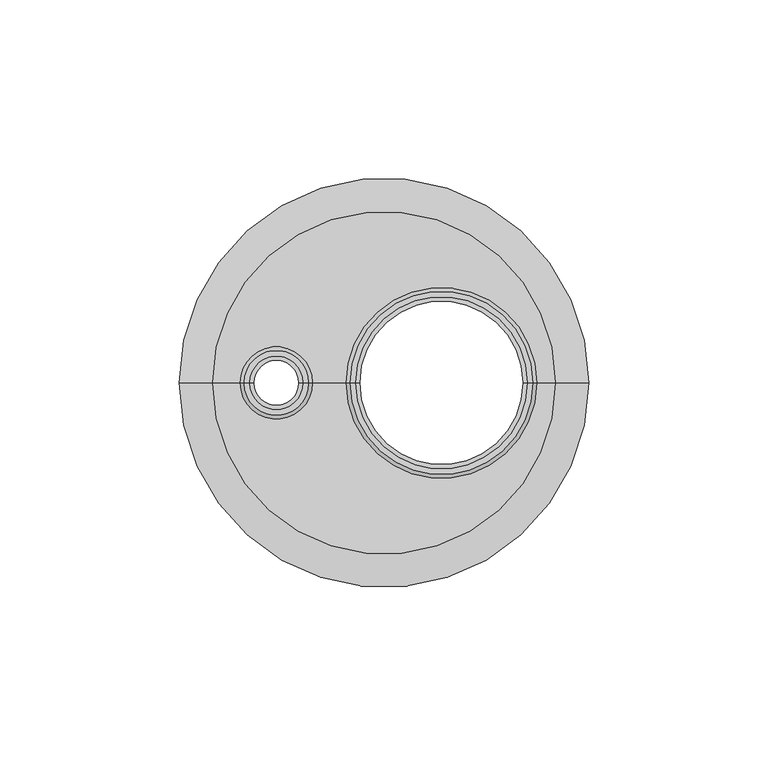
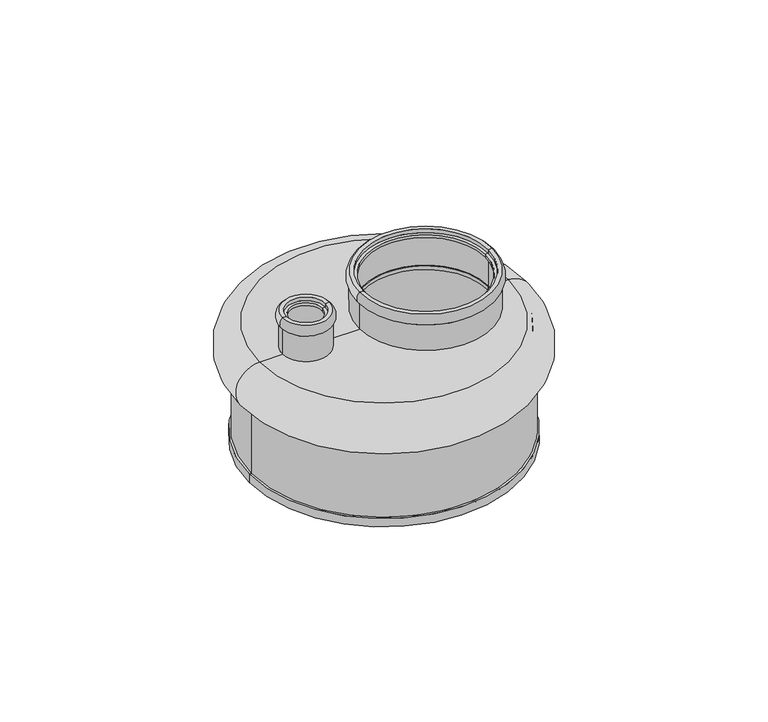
"""IFC4 building model written with IfcOpenShell, lengths in millimetres: valve geometry, Astra - Vedante Flexível Duplo - CFD : Astra - Vedante Flexível Duplo - CFD."""

import ifcopenshell
import ifcopenshell.guid

model = None  # the IFC model being written
_history = None  # IfcOwnerHistory: only IFC2X3 demands one
_inside = {}  # id of a spatial element -> (the spatial element, [elements in it])
_under = {}  # id of a project, library or spatial element -> (it, [spatial elements below it])
_declared = {}  # id of a project -> (the project, [libraries it declares])
_typed = {}  # id of a type object -> (the type object, [elements of that type])
_made_of = {}  # id of a material, layer set ... -> (it, [elements and type objects made of it])


def new_model(schema):
    """Start an empty IFC model of exactly this schema.

    Asked for "IFC4X3", IfcOpenShell would pick the latest addendum, in which some entities
    have other attributes; the version numbers below select the first issue.
    IFC2X3 requires an IfcOwnerHistory on every rooted entity: one is made here for all.
    """
    global model, _history
    if schema == "IFC4X3":
        model = ifcopenshell.file(schema_version=(4, 3, 0, 0))
    else:
        model = ifcopenshell.file(schema=schema)
    _inside.clear()
    _under.clear()
    _declared.clear()
    _typed.clear()
    _made_of.clear()
    _history = None
    if model.schema == "IFC2X3":
        org = make("IfcOrganization", Name="unknown")
        user = make(
            "IfcPersonAndOrganization",
            ThePerson=make("IfcPerson", FamilyName="unknown"),
            TheOrganization=org,
        )
        app = make(
            "IfcApplication",
            ApplicationDeveloper=org,
            Version="unknown",
            ApplicationFullName="unknown",
            ApplicationIdentifier="unknown",
        )
        _history = make(
            "IfcOwnerHistory",
            OwningUser=user,
            OwningApplication=app,
            ChangeAction="ADDED",
            CreationDate=0,
        )
    return model


def make(cls, **values):
    """One entity of the class cls with the attributes given. An attribute that is None is left unset."""
    return model.create_entity(
        cls, **{name: value for name, value in values.items() if value is not None}
    )


def rooted(cls, **values):
    """An entity with a GlobalId (a new one), such as an element, a storey or a relation."""
    return make(cls, GlobalId=ifcopenshell.guid.new(), OwnerHistory=_history, **values)


def si_unit(unit_type, name, prefix=None):
    """IfcSIUnit, for example si_unit("LENGTHUNIT", "METRE", prefix="MILLI")."""
    return make("IfcSIUnit", UnitType=unit_type, Prefix=prefix, Name=name)


def assignment(units):
    """IfcUnitAssignment: the units of a project."""
    return None if units is None else make("IfcUnitAssignment", Units=units)


def point(xyz):
    """IfcCartesianPoint."""
    return None if xyz is None else make("IfcCartesianPoint", Coordinates=xyz)


def direction(xyz):
    """IfcDirection."""
    return None if xyz is None else make("IfcDirection", DirectionRatios=xyz)


def frame(location, z_axis=None, x_axis=None):
    """IfcAxis2Placement3D, a coordinate frame: its origin and axes. An axis left out is left unset."""
    return make(
        "IfcAxis2Placement3D",
        Location=point(location),
        Axis=direction(z_axis),
        RefDirection=direction(x_axis),
    )


def origin():
    """The frame at (0, 0, 0) with its axes left unset."""
    return frame((0.0, 0.0, 0.0))


def origin_with_axes():
    """The frame at (0, 0, 0) with the z axis (0, 0, 1) and the x axis (1, 0, 0) written out."""
    return frame((0.0, 0.0, 0.0), z_axis=(0.0, 0.0, 1.0), x_axis=(1.0, 0.0, 0.0))


def place(relative_to, where):
    """IfcLocalPlacement: puts the frame where relative to a parent placement (None: the world)."""
    return make(
        "IfcLocalPlacement", PlacementRelTo=relative_to, RelativePlacement=where
    )


def context(
    kind, dimensions, precision=None, world=None, true_north=None, identifier=None
):
    """IfcGeometricRepresentationContext, for example the 3D "Model" context."""
    return make(
        "IfcGeometricRepresentationContext",
        ContextIdentifier=identifier,
        ContextType=kind,
        CoordinateSpaceDimension=dimensions,
        Precision=precision,
        WorldCoordinateSystem=world,
        TrueNorth=true_north,
    )


def project(units=None, contexts=None):
    """IfcProject with its units and contexts."""
    return rooted(
        "IfcProject",
        Name="project",
        RepresentationContexts=contexts,
        UnitsInContext=assignment(units),
    )


def spatial(cls, under=None, at=None, **own):
    """A site, building, storey or space (cls), placed at a placement, below another one or the project."""
    s = rooted(cls, ObjectPlacement=at, **own)
    if under is not None:
        _under.setdefault(under.id(), (under, []))[1].append(s)
    return s


def polyline(points):
    """IfcPolyline through the points."""
    return make("IfcPolyline", Points=[point(p) for p in points])


def circle_curve(where, radius):
    """IfcCircle in the frame where."""
    return make("IfcCircle", Position=where, Radius=radius)


def ellipse_curve(where, semi_axis1, semi_axis2):
    """IfcEllipse in the frame where."""
    return make(
        "IfcEllipse", Position=where, SemiAxis1=semi_axis1, SemiAxis2=semi_axis2
    )


def trimmed(basis, trim1, trim2, sense, master):
    """IfcTrimmedCurve: the piece of a basis curve between two trims."""
    return make(
        "IfcTrimmedCurve",
        BasisCurve=basis,
        Trim1=trim1,
        Trim2=trim2,
        SenseAgreement=sense,
        MasterRepresentation=master,
    )


def shape(context_of_items, identifier, shape_type, items):
    """IfcShapeRepresentation: the items that make up one representation, for example the "Body"."""
    return make(
        "IfcShapeRepresentation",
        ContextOfItems=context_of_items,
        RepresentationIdentifier=identifier,
        RepresentationType=shape_type,
        Items=items,
    )


def source(mapping_origin, context_of_items, identifier, shape_type, items):
    """IfcRepresentationMap: a shape defined once, which mapped items show again and again."""
    return make(
        "IfcRepresentationMap",
        MappingOrigin=mapping_origin,
        MappedRepresentation=shape(context_of_items, identifier, shape_type, items),
    )


def transform(
    local_origin,
    x_axis=None,
    y_axis=None,
    z_axis=None,
    scale=None,
    scale2=None,
    scale3=None,
    uniform=True,
):
    """IfcCartesianTransformationOperator3D, or its non-uniform kind. x_axis, y_axis, z_axis: its Axis1, 2, 3."""
    if uniform:
        return make(
            "IfcCartesianTransformationOperator3D",
            Axis1=direction(x_axis),
            Axis2=direction(y_axis),
            LocalOrigin=point(local_origin),
            Scale=scale,
            Axis3=direction(z_axis),
        )
    return make(
        "IfcCartesianTransformationOperator3DnonUniform",
        Axis1=direction(x_axis),
        Axis2=direction(y_axis),
        LocalOrigin=point(local_origin),
        Scale=scale,
        Axis3=direction(z_axis),
        Scale2=scale2,
        Scale3=scale3,
    )


def mapped(mapping_source, mapping_target):
    """IfcMappedItem: shows the shape of a source again, moved by a transform."""
    return make(
        "IfcMappedItem", MappingSource=mapping_source, MappingTarget=mapping_target
    )


def made_of(thing, what):
    """Note that an element or type object is made of a material, layer set ...; save() writes the relation."""
    if what is not None:
        _made_of.setdefault(what.id(), (what, []))[1].append(thing)
    return thing


def element(
    cls,
    number,
    at=None,
    inside=None,
    cuts=None,
    type_object=None,
    material=None,
    context=None,
    identifier="Body",
    shape_type=None,
    held_by="IfcProductDefinitionShape",
    body=None,
    shapes=None,
    **own,
):
    """One element of the class cls, such as IfcWall. Its Tag is "e" and its number.

    at: its placement. inside: the storey or other place that contains it. cuts: it is an
    opening in that element (IfcRelVoidsElement). A single representation is given by context,
    identifier, shape_type and body (its items); several are given by shapes. held_by: the class
    of the entity that holds the representations. save() writes the other relations.
    """
    e = rooted(cls, Tag="e%d" % number, ObjectPlacement=at, **own)
    if body is not None:
        shapes = [shape(context, identifier, shape_type, body)]
    if shapes is not None:
        e.Representation = make(held_by, Representations=shapes)
    if inside is not None:
        _inside.setdefault(inside.id(), (inside, []))[1].append(e)
    if cuts is not None:
        rooted(
            "IfcRelVoidsElement", RelatingBuildingElement=cuts, RelatedOpeningElement=e
        )
    if type_object is not None:
        _typed.setdefault(type_object.id(), (type_object, []))[1].append(e)
    return made_of(e, material)


def aggregate(whole, parts):
    """IfcRelAggregates: a whole, such as a stair, and the parts it consists of."""
    return rooted("IfcRelAggregates", RelatingObject=whole, RelatedObjects=parts)


def save(model, path):
    """Write the relations noted so far, then the file.

    IfcRelAggregates (storeys below a building ...), IfcRelContainedInSpatialStructure (elements
    in a storey), IfcRelDefinesByType, IfcRelAssociatesMaterial and IfcRelDeclares: one each for
    every whole, place, type object, material and project.
    """
    for whole, parts in _under.values():
        aggregate(whole, parts)
    for where, things in _inside.values():
        rooted(
            "IfcRelContainedInSpatialStructure",
            RelatedElements=things,
            RelatingStructure=where,
        )
    for kind, things in _typed.values():
        rooted("IfcRelDefinesByType", RelatedObjects=things, RelatingType=kind)
    for what, things in _made_of.values():
        rooted("IfcRelAssociatesMaterial", RelatedObjects=things, RelatingMaterial=what)
    for by, libraries in _declared.values():
        rooted("IfcRelDeclares", RelatingContext=by, RelatedDefinitions=libraries)
    model.write(path)


def plane_surface(at):
    """IfcPlane: the flat surface through the origin of the frame at, square to its z axis."""
    return make("IfcPlane", Position=at)


def cylinder_surface(at, radius):
    """IfcCylindricalSurface: all points at the distance radius from the z axis of the frame at."""
    return make("IfcCylindricalSurface", Position=at, Radius=radius)


def revolved_surface(curve, axis_point, axis_direction):
    """IfcSurfaceOfRevolution: the curve turned about the line through axis_point along axis_direction."""
    return make(
        "IfcSurfaceOfRevolution",
        SweptCurve=make("IfcArbitraryOpenProfileDef", ProfileType="CURVE", Curve=curve),
        AxisPosition=make("IfcAxis1Placement", Location=point(axis_point), Axis=direction(axis_direction)),
    )


def advanced_brep(points, edges, surfaces, faces):
    """IfcAdvancedBrep: a solid bounded by faces that lie on surfaces and meet in shared edges.

    An edge is (start, end): straight between two places in points (the first is 0);
    or (start, end, curve); or (start, end, curve, False) where it runs against its curve.
    A face is (place in surfaces, loops), or (place, loops, False) where it looks against
    its surface's normal. A loop lists edges by number (the first is 1), with a minus sign
    where the edge is run from its end to its start. The first loop is the outer one.
    """
    corners = [point(p) for p in points]
    vertices = [make("IfcVertexPoint", VertexGeometry=c) for c in corners]
    made = []
    for start, end, *more in edges:
        made.append(
            make(
                "IfcEdgeCurve",
                EdgeStart=vertices[start],
                EdgeEnd=vertices[end],
                EdgeGeometry=more[0] if more else make("IfcPolyline", Points=[corners[start], corners[end]]),
                SameSense=more[1] if len(more) > 1 else True,
            )
        )
    hull = []
    for where, loops, *sense in faces:
        bounds = []
        for j, loop in enumerate(loops):
            ring = [make("IfcOrientedEdge", EdgeElement=made[abs(k) - 1], Orientation=k > 0) for k in loop]
            bounds.append(
                make(
                    "IfcFaceOuterBound" if j == 0 else "IfcFaceBound",
                    Bound=make("IfcEdgeLoop", EdgeList=ring),
                    Orientation=True,
                )
            )
        hull.append(make("IfcAdvancedFace", Bounds=bounds, FaceSurface=surfaces[where], SameSense=sense[0] if sense else True))
    return make("IfcAdvancedBrep", Outer=make("IfcClosedShell", CfsFaces=hull))


def valve_1405c498(model_context):
    return source(origin(), model_context, "Body", "AdvancedBrep", [
        advanced_brep(
        [(47.718, 0.0, 0.0), (-47.718, 0.0, 0.0), (-37.5, 0.0, 0.0), (-22.5, 0.0, 0.0), (-8.0, 0.0, 0.0), (40.0, 0.0, 0.0), (-49.5006317, 0.0, -47.402), (49.5, 0.0, -47.402), (49.5, 0.0, -1.5), (-49.5006317, 0.0, -1.5), (-51.8006317, 0.0, -47.402), (51.8, 0.0, -47.402), (-51.8006317, 0.0, -44.102), (51.8, 0.0, -44.102), (-51.0006317, 0.0, -44.102), (51.0, 0.0, -44.102), (-51.0006317, 0.0, -17.47), (51.0, 0.0, -17.47), (40.0, 0.0, -1.5), (-8.0, 0.0, -1.5), (-22.5, 0.0, -1.5), (-37.5, 0.0, -1.5), (-52.0977329, 0.0, -17.47), (52.0977329, 0.0, -17.47)],
        [
            (0, 1, circle_curve(origin_with_axes(), 47.718)),
            (1, 2),
            (2, 3, circle_curve(frame((-30.0, 0.0, 0.0), z_axis=(0.0, 0.0, -1.0), x_axis=(1.0, 0.0, 0.0)), 7.5)),
            (3, 4),
            (4, 5, circle_curve(frame((16.0, 0.0, 0.0), z_axis=(0.0, 0.0, -1.0), x_axis=(1.0, 0.0, 0.0)), 24.0)),
            (5, 0),
            (1, 0, circle_curve(origin_with_axes(), 47.718)),
            (5, 4, circle_curve(frame((16.0, 0.0, 0.0), z_axis=(0.0, 0.0, -1.0), x_axis=(1.0, 0.0, 0.0)), 24.0)),
            (3, 2, circle_curve(frame((-30.0, 0.0, 0.0), z_axis=(0.0, 0.0, -1.0), x_axis=(1.0, 0.0, 0.0)), 7.5)),
            (6, 7, circle_curve(frame((-0.0003158, 0.0, -47.402), z_axis=(0.0, 0.0, -1.0), x_axis=(1.0, 0.0, 0.0)), 49.5003158)),
            (7, 8),
            (8, 9, circle_curve(frame((-0.0003158, 0.0, -1.5), z_axis=(0.0, 0.0, 1.0), x_axis=(1.0, 0.0, 0.0)), 49.5003158)),
            (9, 6),
            (7, 6, circle_curve(frame((-0.0003158, 0.0, -47.402), z_axis=(0.0, 0.0, -1.0), x_axis=(1.0, 0.0, 0.0)), 49.5003158)),
            (9, 8, circle_curve(frame((-0.0003158, 0.0, -1.5), z_axis=(0.0, 0.0, 1.0), x_axis=(1.0, 0.0, 0.0)), 49.5003158)),
            (6, 10),
            (10, 11, circle_curve(frame((-0.0003158, 0.0, -47.402), z_axis=(0.0, 0.0, -1.0), x_axis=(1.0, 0.0, 0.0)), 51.8003158)),
            (11, 7),
            (11, 10, circle_curve(frame((-0.0003158, 0.0, -47.402), z_axis=(0.0, 0.0, -1.0), x_axis=(1.0, 0.0, 0.0)), 51.8003158)),
            (10, 12),
            (12, 13, circle_curve(frame((-0.0003158, 0.0, -44.102), z_axis=(0.0, 0.0, -1.0), x_axis=(1.0, 0.0, 0.0)), 51.8003158)),
            (13, 11),
            (13, 12, circle_curve(frame((-0.0003158, 0.0, -44.102), z_axis=(0.0, 0.0, -1.0), x_axis=(1.0, 0.0, 0.0)), 51.8003158)),
            (12, 14),
            (14, 15, circle_curve(frame((-0.0003158, 0.0, -44.102), z_axis=(0.0, 0.0, -1.0), x_axis=(1.0, 0.0, 0.0)), 51.0003158)),
            (15, 13),
            (15, 14, circle_curve(frame((-0.0003158, 0.0, -44.102), z_axis=(0.0, 0.0, -1.0), x_axis=(1.0, 0.0, 0.0)), 51.0003158)),
            (14, 16),
            (16, 17, circle_curve(frame((-0.0003158, 0.0, -17.47), z_axis=(0.0, 0.0, -1.0), x_axis=(1.0, 0.0, 0.0)), 51.0003158)),
            (17, 15),
            (17, 16, circle_curve(frame((-0.0003158, 0.0, -17.47), z_axis=(0.0, 0.0, -1.0), x_axis=(1.0, 0.0, 0.0)), 51.0003158)),
            (8, 18),
            (18, 19, circle_curve(frame((16.0, 0.0, -1.5), z_axis=(0.0, 0.0, 1.0), x_axis=(1.0, 0.0, 0.0)), 24.0)),
            (19, 20),
            (20, 21, circle_curve(frame((-30.0, 0.0, -1.5), z_axis=(0.0, 0.0, 1.0), x_axis=(1.0, 0.0, 0.0)), 7.5)),
            (21, 9),
            (21, 20, circle_curve(frame((-30.0, 0.0, -1.5), z_axis=(0.0, 0.0, 1.0), x_axis=(1.0, 0.0, 0.0)), 7.5)),
            (19, 18, circle_curve(frame((16.0, 0.0, -1.5), z_axis=(0.0, 0.0, 1.0), x_axis=(1.0, 0.0, 0.0)), 24.0)),
            (16, 22),
            (22, 23, circle_curve(frame((0.0, 0.0, -17.47), z_axis=(0.0, 0.0, -1.0), x_axis=(1.0, 0.0, 0.0)), 52.0977329)),
            (23, 17),
            (23, 22, circle_curve(frame((0.0, 0.0, -17.47), z_axis=(0.0, 0.0, -1.0), x_axis=(1.0, 0.0, 0.0)), 52.0977329)),
            (22, 1, circle_curve(frame((-47.718, 0.0, -9.284), z_axis=(0.0, 1.0, 0.0), x_axis=(-1.0, 0.0, 0.0)), 9.284)),
            (0, 23, circle_curve(frame((47.718, 0.0, -9.284), z_axis=(0.0, 1.0, 0.0), x_axis=(1.0, 0.0, 0.0)), 9.284)),
            (21, 2),
            (3, 20),
            (19, 4),
            (5, 18),
        ],
        [
            plane_surface(frame((-0.0003158, 0.0, 0.0), z_axis=(0.0, 0.0, 1.0), x_axis=(1.0, 0.0, 0.0))),
            revolved_surface(polyline([(49.5, 0.0, -1.5), (49.5, 0.0, -47.402)]), (-0.0003158, 0.0, 0.0), (0.0, 0.0, 1.0)),
            plane_surface(frame((-0.0003158, 0.0, -47.402), z_axis=(0.0, 0.0, -1.0), x_axis=(1.0, 0.0, 0.0))),
            cylinder_surface(frame((-0.0003158, 0.0, 0.0), z_axis=(0.0, 0.0, 1.0), x_axis=(1.0, 0.0, 0.0)), 51.8003158),
            plane_surface(frame((-0.0003158, 0.0, -44.102), z_axis=(0.0, 0.0, 1.0), x_axis=(1.0, 0.0, 0.0))),
            cylinder_surface(frame((-0.0003158, 0.0, 0.0), z_axis=(0.0, 0.0, 1.0), x_axis=(1.0, 0.0, 0.0)), 51.0003158),
            plane_surface(frame((-0.0003158, 0.0, -1.5), z_axis=(0.0, 0.0, -1.0), x_axis=(1.0, 0.0, 0.0))),
            plane_surface(frame((-0.0003158, 0.0, -17.47), z_axis=(0.0, 0.0, -1.0), x_axis=(1.0, 0.0, 0.0))),
            revolved_surface(trimmed(ellipse_curve(frame((47.718, 0.0, -9.284), z_axis=(0.0, -1.0, 0.0), x_axis=(1.0, 0.0, 0.0)), 9.284, 9.284), [point((52.0977329, 0.0, -17.47))], [point((47.718, 0.0, 0.0))], True, "CARTESIAN"), (0.0, 0.0, 0.0), (0.0, 0.0, 1.0)),
            revolved_surface(polyline([(-22.5, 0.0, 0.0), (-22.5, 0.0, -1.5)]), (-30.0, 0.0, -1.7345602), (0.0, 0.0, 1.0)),
            revolved_surface(polyline([(40.0, 0.0, 0.0), (40.0, 0.0, -1.5)]), (16.0, 0.0, 0.0), (0.0, 0.0, 1.0)),
        ],
        [
            (0, [[1, 2, 3, 4, 5, 6]]),
            (0, [[7, -6, 8, -4, 9, -2]]),
            (1, [[10, 11, 12, 13]]),
            (1, [[-11, 14, -13, 15]]),
            (2, [[-10, 16, 17, 18]]),
            (2, [[-14, -18, 19, -16]]),
            (3, [[-17, 20, 21, 22]]),
            (3, [[-19, -22, 23, -20]]),
            (4, [[-21, 24, 25, 26]]),
            (4, [[-23, -26, 27, -24]]),
            (5, [[-25, 28, 29, 30]]),
            (5, [[-27, -30, 31, -28]]),
            (6, [[-12, 32, 33, 34, 35, 36]]),
            (6, [[-15, -36, 37, -34, 38, -32]]),
            (7, [[-29, 39, 40, 41]]),
            (7, [[-31, -41, 42, -39]]),
            (8, [[43, -1, 44, -40]]),
            (8, [[-43, -42, -44, -7]]),
            (9, [[45, -9, 46, -37]]),
            (9, [[-45, -35, -46, -3]]),
            (10, [[47, -8, 48, -38]]),
            (10, [[-47, -33, -48, -5]]),
        ],
    ),
        advanced_brep(
        [(-9.565, 0.0, 10.5771317), (41.565, 0.0, 10.5771317), (41.565, 0.0, 0.0), (-9.565, 0.0, 0.0), (-9.565, 0.0, 15.0), (41.565, 0.0, 15.0), (-8.0, 0.0, 15.0), (40.0, 0.0, 15.0), (-8.0, 0.0, 13.5), (40.0, 0.0, 13.5), (-6.8, 0.0, 13.5), (38.8, 0.0, 13.5), (-6.8, 0.0, 12.35), (38.8, 0.0, 12.35), (-8.0, 0.0, 12.35), (40.0, 0.0, 12.35), (-8.0, 0.0, 0.0), (40.0, 0.0, 0.0)],
        [
            (0, 1, circle_curve(frame((16.0, 0.0, 10.5771317), z_axis=(0.0, 0.0, -1.0), x_axis=(1.0, 0.0, 0.0)), 25.565)),
            (1, 2),
            (2, 3, circle_curve(frame((16.0, 0.0, 0.0), z_axis=(0.0, 0.0, 1.0), x_axis=(1.0, 0.0, 0.0)), 25.565)),
            (3, 0),
            (1, 0, circle_curve(frame((16.0, 0.0, 10.5771317), z_axis=(0.0, 0.0, -1.0), x_axis=(1.0, 0.0, 0.0)), 25.565)),
            (3, 2, circle_curve(frame((16.0, 0.0, 0.0), z_axis=(0.0, 0.0, 1.0), x_axis=(1.0, 0.0, 0.0)), 25.565)),
            (4, 5, circle_curve(frame((16.0, 0.0, 15.0), z_axis=(0.0, 0.0, -1.0), x_axis=(1.0, 0.0, 0.0)), 25.565)),
            (5, 1, circle_curve(frame((39.620326, 0.0, 12.7885658), z_axis=(0.0, 1.0, 0.0), x_axis=(1.0, 0.0, 0.0)), 2.9448596)),
            (0, 4, circle_curve(frame((-7.620326, 0.0, 12.7885658), z_axis=(0.0, 1.0, 0.0), x_axis=(-1.0, 0.0, 0.0)), 2.9448596)),
            (5, 4, circle_curve(frame((16.0, 0.0, 15.0), z_axis=(0.0, 0.0, -1.0), x_axis=(1.0, 0.0, 0.0)), 25.565)),
            (6, 7, circle_curve(frame((16.0, 0.0, 15.0), z_axis=(0.0, 0.0, -1.0), x_axis=(1.0, 0.0, 0.0)), 24.0)),
            (7, 5),
            (4, 6),
            (7, 6, circle_curve(frame((16.0, 0.0, 15.0), z_axis=(0.0, 0.0, -1.0), x_axis=(1.0, 0.0, 0.0)), 24.0)),
            (8, 9, circle_curve(frame((16.0, 0.0, 13.5), z_axis=(0.0, 0.0, -1.0), x_axis=(1.0, 0.0, 0.0)), 24.0)),
            (9, 7),
            (6, 8),
            (9, 8, circle_curve(frame((16.0, 0.0, 13.5), z_axis=(0.0, 0.0, -1.0), x_axis=(1.0, 0.0, 0.0)), 24.0)),
            (10, 11, circle_curve(frame((16.0, 0.0, 13.5), z_axis=(0.0, 0.0, -1.0), x_axis=(1.0, 0.0, 0.0)), 22.8)),
            (11, 9),
            (8, 10),
            (11, 10, circle_curve(frame((16.0, 0.0, 13.5), z_axis=(0.0, 0.0, -1.0), x_axis=(1.0, 0.0, 0.0)), 22.8)),
            (12, 13, circle_curve(frame((16.0, 0.0, 12.35), z_axis=(0.0, 0.0, -1.0), x_axis=(1.0, 0.0, 0.0)), 22.8)),
            (13, 11),
            (10, 12),
            (13, 12, circle_curve(frame((16.0, 0.0, 12.35), z_axis=(0.0, 0.0, -1.0), x_axis=(1.0, 0.0, 0.0)), 22.8)),
            (14, 15, circle_curve(frame((16.0, 0.0, 12.35), z_axis=(0.0, 0.0, -1.0), x_axis=(1.0, 0.0, 0.0)), 24.0)),
            (15, 13),
            (12, 14),
            (15, 14, circle_curve(frame((16.0, 0.0, 12.35), z_axis=(0.0, 0.0, -1.0), x_axis=(1.0, 0.0, 0.0)), 24.0)),
            (16, 17, circle_curve(frame((16.0, 0.0, 0.0), z_axis=(0.0, 0.0, -1.0), x_axis=(1.0, 0.0, 0.0)), 24.0)),
            (17, 15),
            (14, 16),
            (17, 16, circle_curve(frame((16.0, 0.0, 0.0), z_axis=(0.0, 0.0, -1.0), x_axis=(1.0, 0.0, 0.0)), 24.0)),
            (2, 17),
            (16, 3),
        ],
        [
            cylinder_surface(frame((16.0, 0.0, 15.0), z_axis=(0.0, 0.0, 1.0), x_axis=(1.0, 0.0, 0.0)), 25.565),
            revolved_surface(trimmed(ellipse_curve(frame((39.620326, 0.0, 12.7885658), z_axis=(0.0, -1.0, 0.0), x_axis=(1.0, 0.0, 0.0)), 2.9448596, 2.9448596), [point((41.565, 0.0, 10.5771317))], [point((41.565, 0.0, 15.0))], True, "CARTESIAN"), (16.0, 0.0, 15.0), (0.0, 0.0, 1.0)),
            plane_surface(frame((16.0, 0.0, 15.0), z_axis=(0.0, 0.0, 1.0), x_axis=(1.0, 0.0, 0.0))),
            revolved_surface(polyline([(40.0, 0.0, 15.0), (40.0, 0.0, 13.5)]), (16.0, 0.0, 15.0), (0.0, 0.0, 1.0)),
            plane_surface(frame((16.0, 0.0, 13.5), z_axis=(0.0, 0.0, 1.0), x_axis=(1.0, 0.0, 0.0))),
            revolved_surface(polyline([(38.8, 0.0, 13.5), (38.8, 0.0, 12.35)]), (16.0, 0.0, 15.0), (0.0, 0.0, 1.0)),
            plane_surface(frame((16.0, 0.0, 12.35), z_axis=(0.0, 0.0, -1.0), x_axis=(1.0, 0.0, 0.0))),
            revolved_surface(polyline([(40.0, 0.0, 12.35), (40.0, 0.0, 0.0)]), (16.0, 0.0, 15.0), (0.0, 0.0, 1.0)),
            plane_surface(frame((16.0, 0.0, 0.0), z_axis=(0.0, 0.0, -1.0), x_axis=(1.0, 0.0, 0.0))),
        ],
        [
            (0, [[1, 2, 3, 4]]),
            (0, [[5, -4, 6, -2]]),
            (1, [[7, 8, -1, 9]]),
            (1, [[10, -9, -5, -8]]),
            (2, [[11, 12, -7, 13]]),
            (2, [[14, -13, -10, -12]]),
            (3, [[15, 16, -11, 17]]),
            (3, [[18, -17, -14, -16]]),
            (4, [[19, 20, -15, 21]]),
            (4, [[22, -21, -18, -20]]),
            (5, [[23, 24, -19, 25]]),
            (5, [[26, -25, -22, -24]]),
            (6, [[27, 28, -23, 29]]),
            (6, [[30, -29, -26, -28]]),
            (7, [[31, 32, -27, 33]]),
            (7, [[34, -33, -30, -32]]),
            (8, [[-3, 35, -31, 36]]),
            (8, [[-6, -36, -34, -35]]),
        ],
    ),
        advanced_brep(
        [(-39.065, 0.0, 10.5771317), (-20.935, 0.0, 10.5771317), (-20.935, 0.0, 0.0), (-39.065, 0.0, 0.0), (-39.065, 0.0, 15.0), (-20.935, 0.0, 15.0), (-37.5, 0.0, 15.0), (-22.5, 0.0, 15.0), (-37.5, 0.0, 13.5), (-22.5, 0.0, 13.5), (-36.3, 0.0, 13.5), (-23.7, 0.0, 13.5), (-36.3, 0.0, 12.35), (-23.7, 0.0, 12.35), (-37.5, 0.0, 12.35), (-22.5, 0.0, 12.35), (-37.5, 0.0, 0.0), (-22.5, 0.0, 0.0)],
        [
            (0, 1, circle_curve(frame((-30.0, 0.0, 10.5771317), z_axis=(0.0, 0.0, -1.0), x_axis=(1.0, 0.0, 0.0)), 9.065)),
            (1, 2),
            (2, 3, circle_curve(frame((-30.0, 0.0, 0.0), z_axis=(0.0, 0.0, 1.0), x_axis=(1.0, 0.0, 0.0)), 9.065)),
            (3, 0),
            (1, 0, circle_curve(frame((-30.0, 0.0, 10.5771317), z_axis=(0.0, 0.0, -1.0), x_axis=(1.0, 0.0, 0.0)), 9.065)),
            (3, 2, circle_curve(frame((-30.0, 0.0, 0.0), z_axis=(0.0, 0.0, 1.0), x_axis=(1.0, 0.0, 0.0)), 9.065)),
            (4, 5, circle_curve(frame((-30.0, 0.0, 15.0), z_axis=(0.0, 0.0, -1.0), x_axis=(1.0, 0.0, 0.0)), 9.065)),
            (5, 1, circle_curve(frame((-22.879674, 0.0, 12.7885658), z_axis=(0.0, 1.0, 0.0), x_axis=(1.0, 0.0, 0.0)), 2.9448596)),
            (0, 4, circle_curve(frame((-37.120326, 0.0, 12.7885658), z_axis=(0.0, 1.0, 0.0), x_axis=(-1.0, 0.0, 0.0)), 2.9448596)),
            (5, 4, circle_curve(frame((-30.0, 0.0, 15.0), z_axis=(0.0, 0.0, -1.0), x_axis=(1.0, 0.0, 0.0)), 9.065)),
            (6, 7, circle_curve(frame((-30.0, 0.0, 15.0), z_axis=(0.0, 0.0, -1.0), x_axis=(1.0, 0.0, 0.0)), 7.5)),
            (7, 5),
            (4, 6),
            (7, 6, circle_curve(frame((-30.0, 0.0, 15.0), z_axis=(0.0, 0.0, -1.0), x_axis=(1.0, 0.0, 0.0)), 7.5)),
            (8, 9, circle_curve(frame((-30.0, 0.0, 13.5), z_axis=(0.0, 0.0, -1.0), x_axis=(1.0, 0.0, 0.0)), 7.5)),
            (9, 7),
            (6, 8),
            (9, 8, circle_curve(frame((-30.0, 0.0, 13.5), z_axis=(0.0, 0.0, -1.0), x_axis=(1.0, 0.0, 0.0)), 7.5)),
            (10, 11, circle_curve(frame((-30.0, 0.0, 13.5), z_axis=(0.0, 0.0, -1.0), x_axis=(1.0, 0.0, 0.0)), 6.3)),
            (11, 9),
            (8, 10),
            (11, 10, circle_curve(frame((-30.0, 0.0, 13.5), z_axis=(0.0, 0.0, -1.0), x_axis=(1.0, 0.0, 0.0)), 6.3)),
            (12, 13, circle_curve(frame((-30.0, 0.0, 12.35), z_axis=(0.0, 0.0, -1.0), x_axis=(1.0, 0.0, 0.0)), 6.3)),
            (13, 11),
            (10, 12),
            (13, 12, circle_curve(frame((-30.0, 0.0, 12.35), z_axis=(0.0, 0.0, -1.0), x_axis=(1.0, 0.0, 0.0)), 6.3)),
            (14, 15, circle_curve(frame((-30.0, 0.0, 12.35), z_axis=(0.0, 0.0, -1.0), x_axis=(1.0, 0.0, 0.0)), 7.5)),
            (15, 13),
            (12, 14),
            (15, 14, circle_curve(frame((-30.0, 0.0, 12.35), z_axis=(0.0, 0.0, -1.0), x_axis=(1.0, 0.0, 0.0)), 7.5)),
            (16, 17, circle_curve(frame((-30.0, 0.0, 0.0), z_axis=(0.0, 0.0, -1.0), x_axis=(1.0, 0.0, 0.0)), 7.5)),
            (17, 15),
            (14, 16),
            (17, 16, circle_curve(frame((-30.0, 0.0, 0.0), z_axis=(0.0, 0.0, -1.0), x_axis=(1.0, 0.0, 0.0)), 7.5)),
            (2, 17),
            (16, 3),
        ],
        [
            cylinder_surface(frame((-30.0, 0.0, 15.0), z_axis=(0.0, 0.0, 1.0), x_axis=(1.0, 0.0, 0.0)), 9.065),
            revolved_surface(trimmed(ellipse_curve(frame((-22.879674, 0.0, 12.7885658), z_axis=(0.0, -1.0, 0.0), x_axis=(1.0, 0.0, 0.0)), 2.9448596, 2.9448596), [point((-20.935, 0.0, 10.5771317))], [point((-20.935, 0.0, 15.0))], True, "CARTESIAN"), (-30.0, 0.0, 15.0), (0.0, 0.0, 1.0)),
            plane_surface(frame((-30.0, 0.0, 15.0), z_axis=(0.0, 0.0, 1.0), x_axis=(1.0, 0.0, 0.0))),
            revolved_surface(polyline([(-22.5, 0.0, 15.0), (-22.5, 0.0, 13.5)]), (-30.0, 0.0, 15.0), (0.0, 0.0, 1.0)),
            plane_surface(frame((-30.0, 0.0, 13.5), z_axis=(0.0, 0.0, 1.0), x_axis=(1.0, 0.0, 0.0))),
            revolved_surface(polyline([(-23.7, 0.0, 13.5), (-23.7, 0.0, 12.35)]), (-30.0, 0.0, 15.0), (0.0, 0.0, 1.0)),
            plane_surface(frame((-30.0, 0.0, 12.35), z_axis=(0.0, 0.0, -1.0), x_axis=(1.0, 0.0, 0.0))),
            revolved_surface(polyline([(-22.5, 0.0, 12.35), (-22.5, 0.0, 0.0)]), (-30.0, 0.0, 15.0), (0.0, 0.0, 1.0)),
            plane_surface(frame((-30.0, 0.0, 0.0), z_axis=(0.0, 0.0, -1.0), x_axis=(1.0, 0.0, 0.0))),
        ],
        [
            (0, [[1, 2, 3, 4]]),
            (0, [[5, -4, 6, -2]]),
            (1, [[7, 8, -1, 9]]),
            (1, [[10, -9, -5, -8]]),
            (2, [[11, 12, -7, 13]]),
            (2, [[14, -13, -10, -12]]),
            (3, [[15, 16, -11, 17]]),
            (3, [[18, -17, -14, -16]]),
            (4, [[19, 20, -15, 21]]),
            (4, [[22, -21, -18, -20]]),
            (5, [[23, 24, -19, 25]]),
            (5, [[26, -25, -22, -24]]),
            (6, [[27, 28, -23, 29]]),
            (6, [[30, -29, -26, -28]]),
            (7, [[31, 32, -27, 33]]),
            (7, [[34, -33, -30, -32]]),
            (8, [[-3, 35, -31, 36]]),
            (8, [[-6, -36, -34, -35]]),
        ],
    ),
    ])


if __name__ == "__main__":
    model = new_model("IFC4")
    model_context = context("Model", 3, world=origin())
    ifc_project = project(units=[si_unit("LENGTHUNIT", "METRE", prefix="MILLI")], contexts=[model_context])
    site = spatial("IfcSite", under=ifc_project)
    building = spatial("IfcBuilding", under=site)
    placement = place(None, origin())
    valve_shape = valve_1405c498(model_context)
    element("IfcValve", 1, ObjectType="Astra - Vedante Flexível Duplo - CFD : Astra - Vedante Flexível Duplo - CFD", at=placement, inside=building, context=model_context, shape_type="MappedRepresentation", body=[
        mapped(valve_shape, transform((0.0, 0.0, 0.0), x_axis=(1.0, 0.0, 0.0), y_axis=(0.0, 1.0, 0.0), z_axis=(0.0, 0.0, 1.0))),
    ])
    save(model, "model.ifc")
